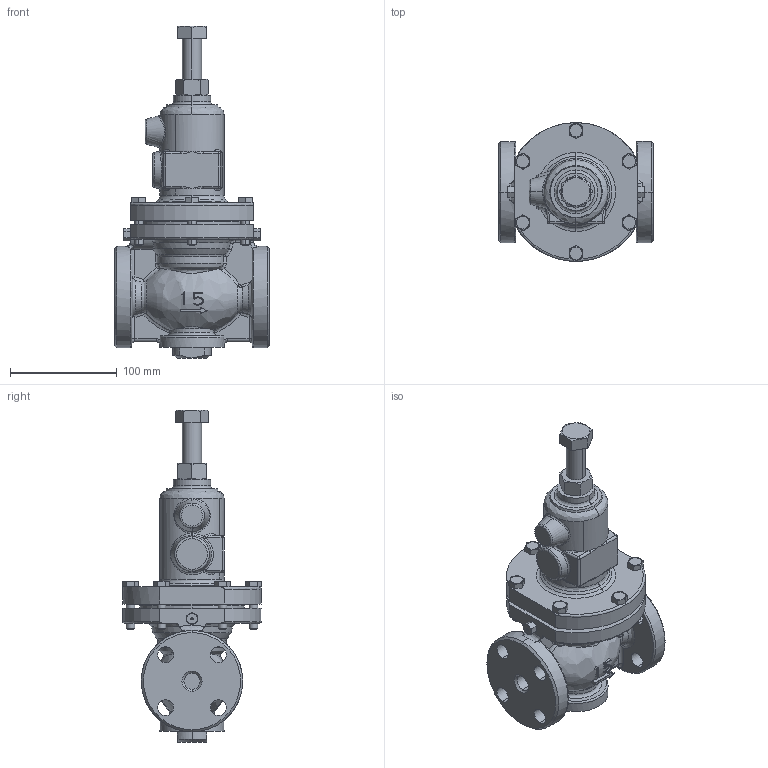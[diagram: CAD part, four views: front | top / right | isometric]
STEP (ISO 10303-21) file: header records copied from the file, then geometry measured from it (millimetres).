
FILE_DESCRIPTION( (''), '2;1');
FILE_NAME ('PC1056.10872.GD-200(15A)_1360.stp','2024-09-11T16:52:21',(''),(''),'spGate 19.8.4 (****-****-****-****)','','');
FILE_SCHEMA (('AUTOMOTIVE_DESIGN'));
Length unit declared in the file: millimetre
Products named in the file (4): Assembly; GD-200(15A)本体P; GD200保護筒15A25A; CP_''_JIS B 1181 六角ナット 2種 上 ''_700
Assembly tree (3 placements, depth 2):
  Assembly
    GD-200(15A)本体P
    GD200保護筒15A25A
    CP_''_JIS B 1181 六角ナット 2種 上 ''_700
Bounding box: 145 x 130.01 x 311.11 mm (x, y, z)
Volume: 1327931.4 mm3; surface area: 172227.1 mm2
Topology: 3 solids, 3 shells, 495 faces, 1254 edges, 782 vertices
Faces by surface type: bspline 197, plane 159, cylinder 132, sphere 7
Entity records: 37415 total; most frequent: CARTESIAN_POINT 17330, ORIENTED_EDGE 2488, COLOUR_RGB 1742, PRESENTATION_STYLE_ASSIGNMENT 1742, STYLED_ITEM 1742, DIRECTION 1718, EDGE_CURVE 1244, DRAUGHTING_PRE_DEFINED_CURVE_FONT 1244
